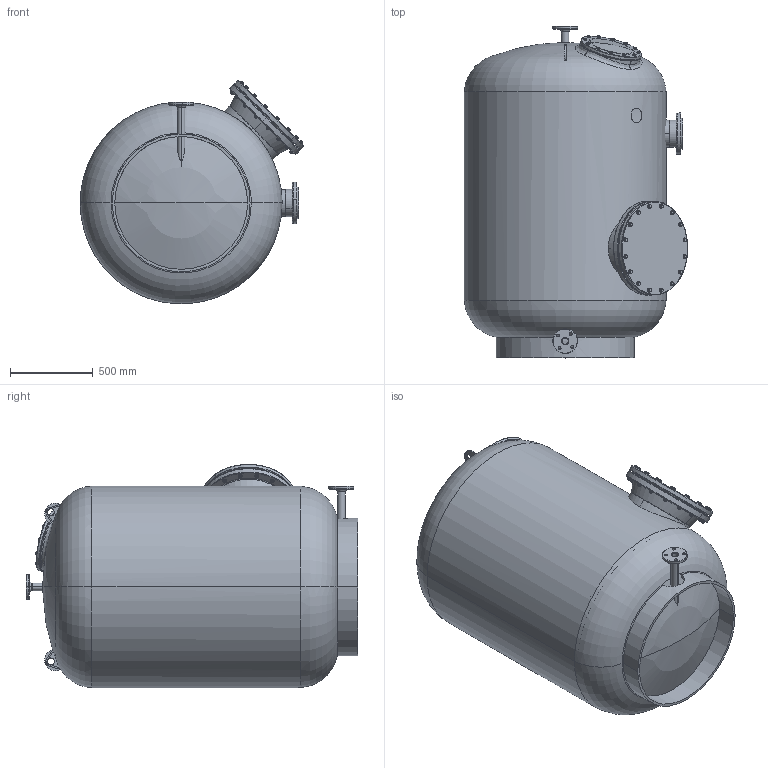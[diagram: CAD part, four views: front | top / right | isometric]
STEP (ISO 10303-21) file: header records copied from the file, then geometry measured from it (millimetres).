
FILE_DESCRIPTION (( 'STEP AP214' ), '1' );
FILE_NAME ('adriatic120c_sb1000_big.STEP', '2020-11-04T12:07:21', ( '' ), ( '' ), 'SwSTEP 2.0', 'SolidWorks 2019', '' );
FILE_SCHEMA (( 'AUTOMOTIVE_DESIGN' ));
Length unit declared in the file: millimetre
Products named in the file (1): adriatic120c_sb1000_big
Bounding box: 1346.29 x 1999.76 x 1344.99 mm (x, y, z)
Surface area: 19116872.3 mm2 (no closed solid volume)
Topology: 0 solids, 117 shells, 1764 faces, 3921 edges, 2398 vertices
Faces by surface type: cone 571, cylinder 566, plane 528, torus 69, bspline 16, sphere 14
Entity records: 99358 total; most frequent: CARTESIAN_POINT 40927, ORIENTED_EDGE 7722, DIRECTION 7690, EDGE_CURVE 3885, AXIS2_PLACEMENT_3D 3311, VERTEX_POINT 2394, EDGE_LOOP 2125, UNCERTAINTY_MEASURE_WITH_UNIT 1871
